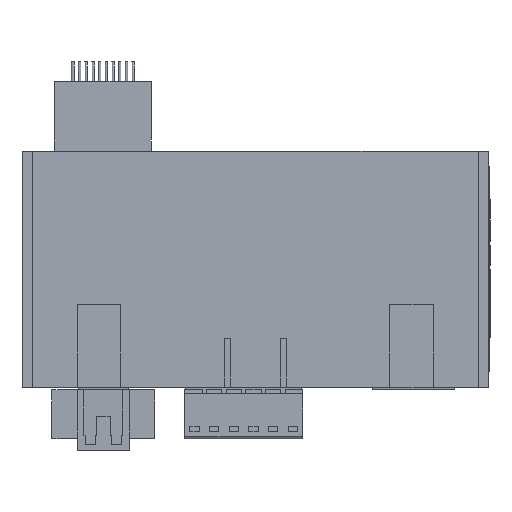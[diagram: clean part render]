
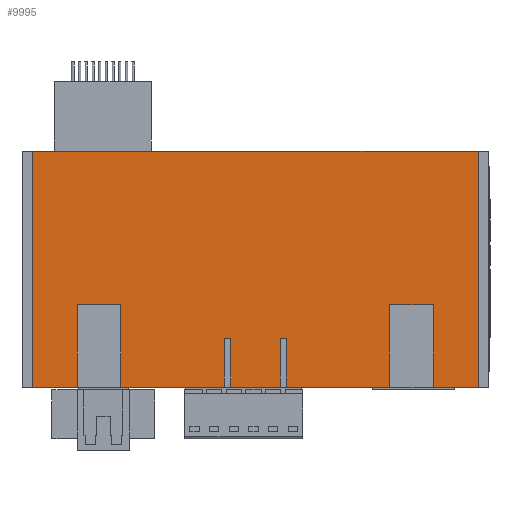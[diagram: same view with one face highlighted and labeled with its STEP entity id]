
A CAD part, front view. The second image highlights one B-rep face of the part: STEP entity #9995.
In plain terms, the highlighted planar face has unit normal (0, -1, 0) as drawn and (0, 0, -1) by its records, which use the part's own axes.
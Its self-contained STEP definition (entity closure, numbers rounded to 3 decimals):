
#537=FACE_OUTER_BOUND('',#1108,.T.);
#1108=EDGE_LOOP('',(#6781,#6782,#6783,#6784,#6785,#6786,#6787,#6788,#6789,
#6790,#6791,#6792,#6793,#6794,#6795,#6796,#6797,#6798,#6799,#6800));
#1706=LINE('',#13881,#2937);
#1710=LINE('',#13889,#2941);
#1738=LINE('',#14071,#2969);
#1745=LINE('',#14086,#2976);
#1749=LINE('',#14094,#2980);
#1753=LINE('',#14102,#2984);
#1772=LINE('',#14139,#3003);
#1796=LINE('',#14184,#3027);
#1797=LINE('',#14186,#3028);
#1798=LINE('',#14188,#3029);
#1799=LINE('',#14189,#3030);
#1800=LINE('',#14190,#3031);
#1801=LINE('',#14191,#3032);
#1802=LINE('',#14193,#3033);
#1803=LINE('',#14195,#3034);
#1804=LINE('',#14196,#3035);
#1805=LINE('',#14197,#3036);
#1806=LINE('',#14199,#3037);
#1807=LINE('',#14201,#3038);
#1808=LINE('',#14202,#3039);
#2937=VECTOR('',#11356,1000.);
#2941=VECTOR('',#11360,1000.);
#2969=VECTOR('',#11570,1000.);
#2976=VECTOR('',#11579,1000.);
#2980=VECTOR('',#11583,1000.);
#2984=VECTOR('',#11587,1000.);
#3003=VECTOR('',#11606,1000.);
#3027=VECTOR('',#11636,1000.);
#3028=VECTOR('',#11637,1000.);
#3029=VECTOR('',#11638,1000.);
#3030=VECTOR('',#11639,1000.);
#3031=VECTOR('',#11640,1000.);
#3032=VECTOR('',#11641,1000.);
#3033=VECTOR('',#11642,1000.);
#3034=VECTOR('',#11643,1000.);
#3035=VECTOR('',#11644,1000.);
#3036=VECTOR('',#11645,1000.);
#3037=VECTOR('',#11646,1000.);
#3038=VECTOR('',#11647,1000.);
#3039=VECTOR('',#11648,1000.);
#4168=VERTEX_POINT('',#13878);
#4169=VERTEX_POINT('',#13880);
#4172=VERTEX_POINT('',#13886);
#4173=VERTEX_POINT('',#13888);
#4235=VERTEX_POINT('',#14068);
#4236=VERTEX_POINT('',#14070);
#4242=VERTEX_POINT('',#14084);
#4243=VERTEX_POINT('',#14085);
#4246=VERTEX_POINT('',#14091);
#4247=VERTEX_POINT('',#14093);
#4250=VERTEX_POINT('',#14099);
#4251=VERTEX_POINT('',#14101);
#4268=VERTEX_POINT('',#14136);
#4269=VERTEX_POINT('',#14138);
#4288=VERTEX_POINT('',#14185);
#4289=VERTEX_POINT('',#14187);
#4290=VERTEX_POINT('',#14192);
#4291=VERTEX_POINT('',#14194);
#4292=VERTEX_POINT('',#14198);
#4293=VERTEX_POINT('',#14200);
#5139=EDGE_CURVE('',#4168,#4169,#1706,.T.);
#5143=EDGE_CURVE('',#4172,#4173,#1710,.T.);
#5225=EDGE_CURVE('',#4235,#4236,#1738,.T.);
#5232=EDGE_CURVE('',#4242,#4243,#1745,.T.);
#5236=EDGE_CURVE('',#4246,#4247,#1749,.T.);
#5240=EDGE_CURVE('',#4250,#4251,#1753,.T.);
#5259=EDGE_CURVE('',#4268,#4269,#1772,.T.);
#5283=EDGE_CURVE('',#4172,#4243,#1796,.T.);
#5284=EDGE_CURVE('',#4288,#4242,#1797,.T.);
#5285=EDGE_CURVE('',#4289,#4288,#1798,.T.);
#5286=EDGE_CURVE('',#4289,#4269,#1799,.T.);
#5287=EDGE_CURVE('',#4236,#4268,#1800,.T.);
#5288=EDGE_CURVE('',#4235,#4251,#1801,.T.);
#5289=EDGE_CURVE('',#4290,#4250,#1802,.T.);
#5290=EDGE_CURVE('',#4291,#4290,#1803,.T.);
#5291=EDGE_CURVE('',#4291,#4247,#1804,.T.);
#5292=EDGE_CURVE('',#4169,#4246,#1805,.T.);
#5293=EDGE_CURVE('',#4292,#4168,#1806,.T.);
#5294=EDGE_CURVE('',#4293,#4292,#1807,.T.);
#5295=EDGE_CURVE('',#4293,#4173,#1808,.T.);
#6781=ORIENTED_EDGE('',*,*,#5143,.F.);
#6782=ORIENTED_EDGE('',*,*,#5283,.T.);
#6783=ORIENTED_EDGE('',*,*,#5232,.F.);
#6784=ORIENTED_EDGE('',*,*,#5284,.F.);
#6785=ORIENTED_EDGE('',*,*,#5285,.F.);
#6786=ORIENTED_EDGE('',*,*,#5286,.T.);
#6787=ORIENTED_EDGE('',*,*,#5259,.F.);
#6788=ORIENTED_EDGE('',*,*,#5287,.F.);
#6789=ORIENTED_EDGE('',*,*,#5225,.F.);
#6790=ORIENTED_EDGE('',*,*,#5288,.T.);
#6791=ORIENTED_EDGE('',*,*,#5240,.F.);
#6792=ORIENTED_EDGE('',*,*,#5289,.F.);
#6793=ORIENTED_EDGE('',*,*,#5290,.F.);
#6794=ORIENTED_EDGE('',*,*,#5291,.T.);
#6795=ORIENTED_EDGE('',*,*,#5236,.F.);
#6796=ORIENTED_EDGE('',*,*,#5292,.F.);
#6797=ORIENTED_EDGE('',*,*,#5139,.F.);
#6798=ORIENTED_EDGE('',*,*,#5293,.F.);
#6799=ORIENTED_EDGE('',*,*,#5294,.F.);
#6800=ORIENTED_EDGE('',*,*,#5295,.T.);
#9509=PLANE('',#10793);
#9995=ADVANCED_FACE('',(#537),#9509,.F.);
#10793=AXIS2_PLACEMENT_3D('',#14183,#11634,#11635);
#11356=DIRECTION('',(0.,-1.,0.));
#11360=DIRECTION('',(0.,-1.,0.));
#11570=DIRECTION('',(0.,1.,0.));
#11579=DIRECTION('',(0.,-1.,0.));
#11583=DIRECTION('',(0.,-1.,0.));
#11587=DIRECTION('',(0.,-1.,0.));
#11606=DIRECTION('',(0.,-1.,0.));
#11634=DIRECTION('center_axis',(0.,0.,1.));
#11635=DIRECTION('ref_axis',(1.,0.,0.));
#11636=DIRECTION('',(-1.,0.,0.));
#11637=DIRECTION('',(-1.,0.,0.));
#11638=DIRECTION('',(0.,-1.,0.));
#11639=DIRECTION('',(-1.,0.,0.));
#11640=DIRECTION('',(-1.,0.,0.));
#11641=DIRECTION('',(-1.,0.,0.));
#11642=DIRECTION('',(-1.,0.,0.));
#11643=DIRECTION('',(0.,-1.,0.));
#11644=DIRECTION('',(-1.,0.,0.));
#11645=DIRECTION('',(-1.,0.,0.));
#11646=DIRECTION('',(1.,0.,0.));
#11647=DIRECTION('',(0.,-1.,0.));
#11648=DIRECTION('',(1.,0.,0.));
#13878=CARTESIAN_POINT('',(-13.4,-4.8,0.));
#13880=CARTESIAN_POINT('',(-13.4,-6.,0.));
#13881=CARTESIAN_POINT('',(-13.4,6.,0.));
#13886=CARTESIAN_POINT('',(-13.4,6.,0.));
#13888=CARTESIAN_POINT('',(-13.4,4.8,0.));
#13889=CARTESIAN_POINT('',(-13.4,6.,0.));
#14068=CARTESIAN_POINT('',(22.9,-43.25,0.));
#14070=CARTESIAN_POINT('',(22.9,43.25,0.));
#14071=CARTESIAN_POINT('',(22.9,45.25,0.));
#14084=CARTESIAN_POINT('',(-22.9,26.05,0.));
#14085=CARTESIAN_POINT('',(-22.9,6.,0.));
#14086=CARTESIAN_POINT('',(-22.9,45.25,0.));
#14091=CARTESIAN_POINT('',(-22.9,-6.,0.));
#14093=CARTESIAN_POINT('',(-22.9,-26.05,0.));
#14094=CARTESIAN_POINT('',(-22.9,45.25,0.));
#14099=CARTESIAN_POINT('',(-22.9,-34.55,0.));
#14101=CARTESIAN_POINT('',(-22.9,-43.25,0.));
#14102=CARTESIAN_POINT('',(-22.9,45.25,0.));
#14136=CARTESIAN_POINT('',(-22.9,43.25,0.));
#14138=CARTESIAN_POINT('',(-22.9,34.55,0.));
#14139=CARTESIAN_POINT('',(-22.9,45.25,0.));
#14183=CARTESIAN_POINT('Origin',(0.,0.,0.));
#14184=CARTESIAN_POINT('',(-13.4,6.,0.));
#14185=CARTESIAN_POINT('',(-6.9,26.05,0.));
#14186=CARTESIAN_POINT('',(-6.9,26.05,0.));
#14187=CARTESIAN_POINT('',(-6.9,34.55,0.));
#14188=CARTESIAN_POINT('',(-6.9,34.55,0.));
#14189=CARTESIAN_POINT('',(-6.9,34.55,0.));
#14190=CARTESIAN_POINT('',(22.9,43.25,0.));
#14191=CARTESIAN_POINT('',(22.9,-43.25,0.));
#14192=CARTESIAN_POINT('',(-6.9,-34.55,0.));
#14193=CARTESIAN_POINT('',(-6.9,-34.55,0.));
#14194=CARTESIAN_POINT('',(-6.9,-26.05,0.));
#14195=CARTESIAN_POINT('',(-6.9,-34.55,0.));
#14196=CARTESIAN_POINT('',(-6.9,-26.05,0.));
#14197=CARTESIAN_POINT('',(-13.4,-6.,0.));
#14198=CARTESIAN_POINT('',(-22.9,-4.8,0.));
#14199=CARTESIAN_POINT('',(-22.9,-4.8,0.));
#14200=CARTESIAN_POINT('',(-22.9,4.8,0.));
#14201=CARTESIAN_POINT('',(-22.9,4.8,0.));
#14202=CARTESIAN_POINT('',(-22.9,4.8,0.));
